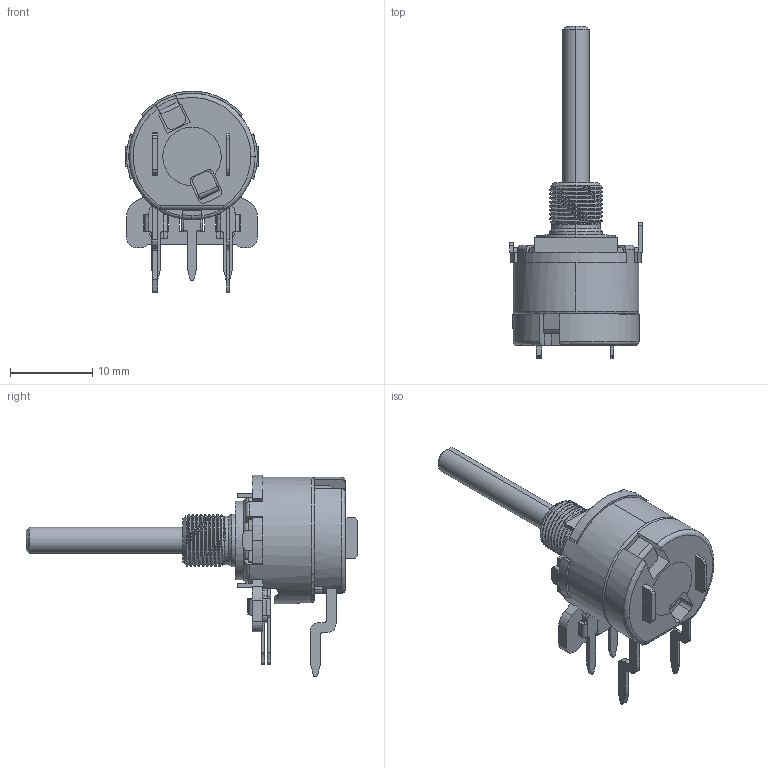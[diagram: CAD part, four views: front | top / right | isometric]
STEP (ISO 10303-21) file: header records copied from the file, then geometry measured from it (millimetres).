
FILE_DESCRIPTION (( 'STEP AP214' ), '1' );
FILE_NAME ('270X232A104B1B1.STEP', '2019-05-24T08:12:42', ( '' ), ( '' ), 'SwSTEP 2.0', 'SolidWorks 2019', '' );
FILE_SCHEMA (( 'AUTOMOTIVE_DESIGN' ));
Length unit declared in the file: millimetre
Products named in the file (13): 270X232A104B1B1; 270-95-016-00-00; 270-01-125-30-01G; 270-40-057-02-53; 057-18-048-06-12; 057-01-T11-34-01; 270-18-020-01-37(for 270-95-016); 270 element; 270A-A-2252; 270-07-014-01-53; C270S69863; 057-18-058-18-12; 270-13-127-06-12(for 270-95-016)
Assembly tree (12 placements, depth 3):
  270X232A104B1B1
    270-40-057-02-53
    270-07-014-01-53
    270A-A-2252
    057-01-T11-34-01
    270-95-016-00-00
      270-01-125-30-01G
      270 element
      270-13-127-06-12(for 270-95-016)
      270-18-020-01-37(for 270-95-016)
    057-18-048-06-12
    057-18-058-18-12
    C270S69863
Bounding box: 16.16 x 40.34 x 24.49 mm (x, y, z)
Volume: 1614.4 mm3; surface area: 4092.3 mm2
Topology: 12 solids, 12 shells, 774 faces, 2182 edges, 1430 vertices
Faces by surface type: plane 458, cylinder 267, torus 25, cone 20, bspline 2, sphere 2
Entity records: 26740 total; most frequent: CARTESIAN_POINT 5824, ORIENTED_EDGE 4356, DIRECTION 4250, EDGE_CURVE 2178, VERTEX_POINT 1428, VECTOR 1418, LINE 1418, AXIS2_PLACEMENT_3D 1416
